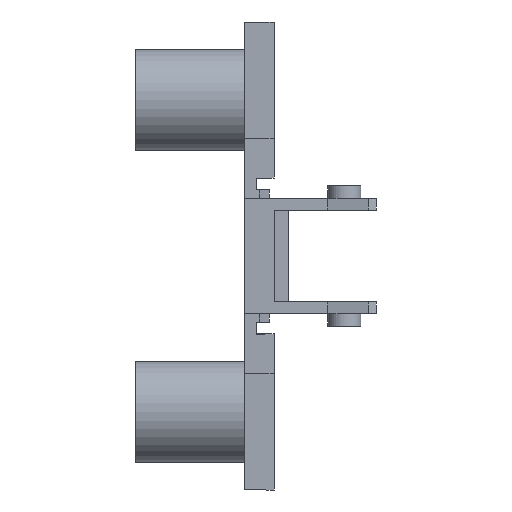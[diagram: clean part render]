
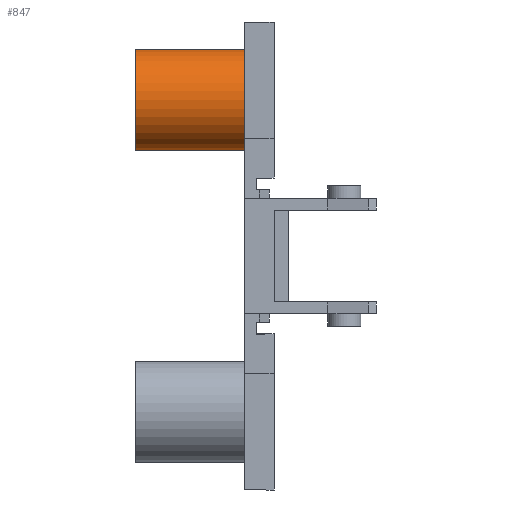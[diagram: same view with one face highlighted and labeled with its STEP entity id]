
A CAD part, front view. The second image highlights one B-rep face of the part: STEP entity #847.
In plain terms, the highlighted cylindrical face has radius 5.2 mm (diameter 10.4 mm), a partial arc.
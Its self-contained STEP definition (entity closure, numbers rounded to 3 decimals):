
#13 = VERTEX_POINT ( 'NONE', #3282 ) ;
#18 = VERTEX_POINT ( 'NONE', #3293 ) ;
#19 = VERTEX_POINT ( 'NONE', #3301 ) ;
#20 = VERTEX_POINT ( 'NONE', #3302 ) ;
#452 = CARTESIAN_POINT ( 'NONE',  ( -11.2, 0., 10.8 ) ) ;
#453 = DIRECTION ( 'NONE',  ( 1., 0., 0. ) ) ;
#613 = LINE ( 'NONE', #452, #614 ) ;
#614 = VECTOR ( 'NONE', #453, 1000. ) ;
#688 = AXIS2_PLACEMENT_3D ( 'NONE', #3443, #3441, #3423 ) ;
#690 = AXIS2_PLACEMENT_3D ( 'NONE', #3158, #3160, #3161 ) ;
#758 = AXIS2_PLACEMENT_3D ( 'NONE', #3008, #3009, #3010 ) ;
#847 = ADVANCED_FACE ( 'NONE', ( #1983 ), #1978, .T. ) ;
#979 = EDGE_CURVE ( 'NONE', #20, #13, #2162, .T. ) ;
#1048 = EDGE_CURVE ( 'NONE', #19, #18, #2288, .T. ) ;
#1079 = EDGE_CURVE ( 'NONE', #18, #13, #2342, .T. ) ;
#1240 = EDGE_CURVE ( 'NONE', #19, #20, #613, .T. ) ;
#1334 = EDGE_LOOP ( 'NONE', ( #1492, #1472, #1493, #1470 ) ) ;
#1470 = ORIENTED_EDGE ( 'NONE', *, *, #979, .T. ) ;
#1472 = ORIENTED_EDGE ( 'NONE', *, *, #1048, .F. ) ;
#1492 = ORIENTED_EDGE ( 'NONE', *, *, #1079, .F. ) ;
#1493 = ORIENTED_EDGE ( 'NONE', *, *, #1240, .T. ) ;
#1978 = CYLINDRICAL_SURFACE ( 'NONE', #688, 5.2 ) ;
#1983 = FACE_OUTER_BOUND ( 'NONE', #1334, .T. ) ;
#2162 = CIRCLE ( 'NONE', #758, 5.2 ) ;
#2288 = CIRCLE ( 'NONE', #690, 5.2 ) ;
#2342 = LINE ( 'NONE', #3227, #2343 ) ;
#2343 = VECTOR ( 'NONE', #3228, 1000. ) ;
#3008 = CARTESIAN_POINT ( 'NONE',  ( 0., 0., 16. ) ) ;
#3009 = DIRECTION ( 'NONE',  ( -1., 0., 0. ) ) ;
#3010 = DIRECTION ( 'NONE',  ( 0., 0., -1. ) ) ;
#3158 = CARTESIAN_POINT ( 'NONE',  ( -11.2, 0., 16. ) ) ;
#3160 = DIRECTION ( 'NONE',  ( -1., 0., 0. ) ) ;
#3161 = DIRECTION ( 'NONE',  ( 0., 0., 1. ) ) ;
#3227 = CARTESIAN_POINT ( 'NONE',  ( -11.2, 0., 21.2 ) ) ;
#3228 = DIRECTION ( 'NONE',  ( 1., 0., 0. ) ) ;
#3282 = CARTESIAN_POINT ( 'NONE',  ( 0., 0., 21.2 ) ) ;
#3293 = CARTESIAN_POINT ( 'NONE',  ( -11.2, 0., 21.2 ) ) ;
#3301 = CARTESIAN_POINT ( 'NONE',  ( -11.2, 0., 10.8 ) ) ;
#3302 = CARTESIAN_POINT ( 'NONE',  ( 0., 0., 10.8 ) ) ;
#3423 = DIRECTION ( 'NONE',  ( 0., 0., -1. ) ) ;
#3441 = DIRECTION ( 'NONE',  ( 1., 0., 0. ) ) ;
#3443 = CARTESIAN_POINT ( 'NONE',  ( -11.2, 0., 16. ) ) ;
